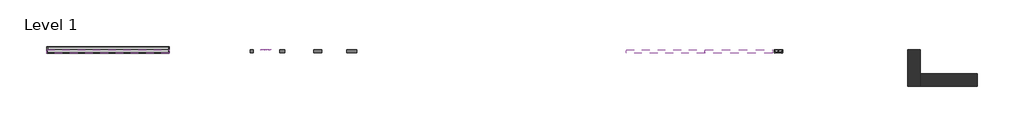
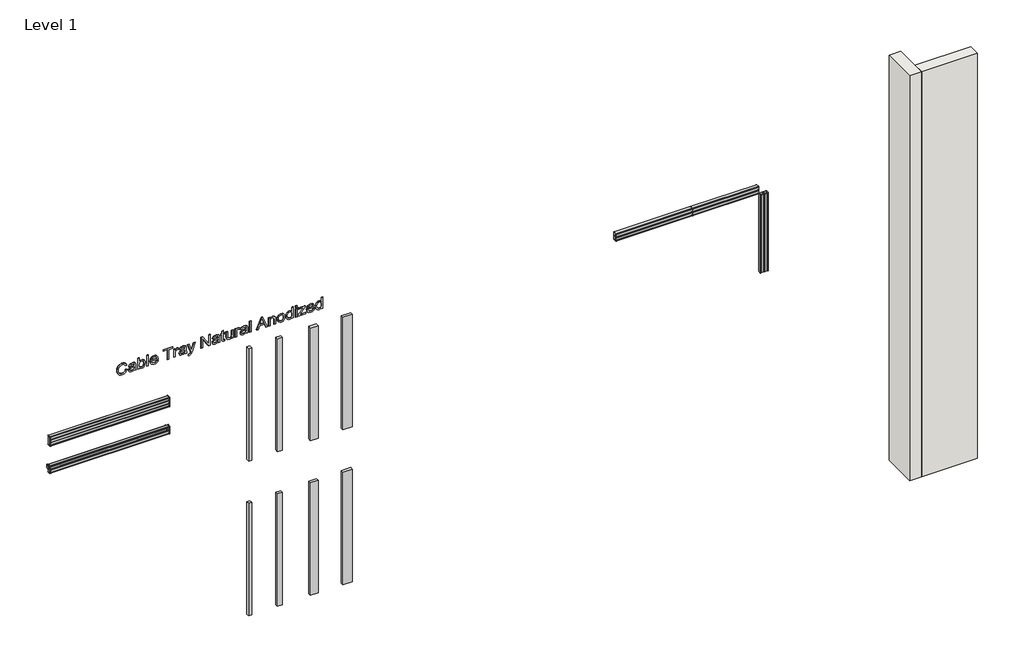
# One storey, incomplete: 8 cable carrier segments, 7 proxies, 2 walls.
"""IFC4 building model written with IfcOpenShell, lengths in millimetres."""

from ifc_helpers import new_model, si_unit, frame, origin, origin_with_axes, place, context, project, spatial, polyline, outline, extrude, faceted_brep, transform, mapped, element, save
from components import natural_anodized_aluminium_24a87ea1, natural_anodized_aluminium_b63ba4a8, natural_anodized_aluminium_cb93105c, natural_anodized_aluminium_d1e92eb6, natural_anodized_aluminium_aa0bdabd, natural_anodized_aluminium_e00abe71

model = new_model("IFC4")

# Units and contexts
model_context = context("Model", 3, world=origin())
ifc_project = project(units=[si_unit("LENGTHUNIT", "METRE", prefix="MILLI")], contexts=[model_context])

# Site, building, storey
site = spatial("IfcSite", under=ifc_project)
building = spatial("IfcBuilding", under=site)
storey = spatial("IfcBuildingStorey", under=building, Name="Level 1", Elevation=4000.0)

# Proxies
placement = place(None, origin())
element("IfcBuildingElementProxy", 1, Name="200mm Arial", ObjectType="200mm Arial", at=placement, inside=storey, context=model_context, shape_type="SweptSolid", body=[
    extrude(outline(polyline([(6110.4407483, -13910.5435834), (6089.3590175, -13918.5063238), (6074.1907483, -13931.4330065), (6065.0320944, -13948.5544007), (6061.9792098, -13969.1012757), (6064.2207964, -13986.7274776), (6070.945556, -14003.0676219), (6082.2015656, -14016.6974296), (6098.0369021, -14026.1926219), (6117.7003637, -14031.7635353), (6140.4407483, -14033.6205065), (6159.0104598, -14032.0519969), (6177.0272868, -14027.346468), (6192.9647868, -14018.7707469), (6205.2965175, -14005.5916603), (6213.1931521, -13988.2238719), (6215.8253637, -13967.082045), (6213.4515656, -13948.7406988), (6206.3301714, -13933.8128142), (6194.0164694, -13922.1541603), (6176.0657483, -13913.6205065), (6181.9311329, -13889.0051219), (6206.6426714, -13899.8765161), (6225.1042098, -13916.8176219), (6236.6066137, -13939.1313238), (6240.4407483, -13966.1205065), (6237.4780079, -13990.8560834), (6228.5897868, -14013.4281988), (6213.992431, -14032.4606507), (6193.9022868, -14046.5772373), (6169.1066137, -14055.3212276), (6140.3926714, -14058.2358911), (6113.1691137, -14055.6577661), (6087.7484406, -14047.9233911), (6066.1258444, -14035.2551219), (6050.2965175, -14017.8753142), (6040.5969983, -13995.2010353), (6037.3638252, -13966.6493526), (6041.6366618, -13938.5243526), (6054.4551714, -13915.1108911), (6075.4107002, -13897.2863719), (6104.0945944, -13885.9281988), (6110.4407483, -13910.5435834)])), frame((0.0, 2566.5081828, 0.0), z_axis=(0.0, 1.0, 0.0), x_axis=(0.0, 0.0, 1.0)), (0.0, 0.0, 1.0), 5.0),
    extrude(outline(polyline([(6058.9022868, -13762.8512757), (6040.4407483, -13756.6974296), (6040.4407483, -13732.082045), (6061.1378637, -13736.9858911), (6103.9022868, -13738.2358911), (6134.5272868, -13738.2358911), (6156.0657483, -13739.4378142), (6172.7724791, -13746.9858911), (6183.758056, -13763.8368526), (6188.133056, -13793.6685834), (6183.1811329, -13826.144545), (6177.1835368, -13838.5123334), (6169.0945944, -13847.5868526), (6145.0561329, -13858.2358911), (6141.9792098, -13833.6205065), (6152.2135848, -13828.7286796), (6158.7820944, -13821.7455065), (6163.5176714, -13796.8416603), (6161.7388252, -13781.0003142), (6156.4022868, -13769.6301219), (6149.2147868, -13764.5459873), (6138.2292098, -13762.8512757), (6132.7484406, -13762.9955065), (6124.2869021, -13805.6878142), (6120.5849791, -13826.9858911), (6112.508056, -13844.221468), (6098.3734406, -13856.6012757), (6078.9022868, -13861.3128142), (6062.351806, -13858.1938238), (6049.0465175, -13848.8368526), (6040.2844983, -13833.6625738), (6037.3638252, -13813.0916603), (6042.2195944, -13786.721468), (6058.9022868, -13762.8512757)]), holes=[polyline([(6108.133056, -13762.8512757), (6101.1619021, -13762.9955065), (6082.1234406, -13766.8897373), (6067.8686329, -13782.9474296), (6063.4515656, -13794.6301219), (6061.9792098, -13807.8512757), (6063.3133444, -13820.3212276), (6067.3157483, -13829.3656988), (6073.3133444, -13834.8644969), (6080.633056, -13836.6974296), (6090.1042098, -13833.332045), (6096.5945944, -13823.7406988), (6100.5849791, -13802.5628142), (6108.133056, -13762.8512757)])]), frame((0.0, 2566.5081828, 0.0), z_axis=(0.0, 1.0, 0.0), x_axis=(0.0, 0.0, 1.0)), (0.0, 0.0, 1.0), 5.0),
    extrude(outline(polyline([(6040.4407483, -13679.7743526), (6063.4695944, -13679.7743526), (6043.8902675, -13663.1517565), (6038.9954358, -13652.8662998), (6037.3638252, -13641.2647373), (6042.4239214, -13618.3260353), (6057.6042098, -13598.9330065), (6082.0513252, -13585.7178623), (6114.9119021, -13581.3128142), (6144.2628637, -13585.5676219), (6167.7003637, -13597.3224296), (6182.7724791, -13616.457045), (6188.133056, -13641.1205065), (6182.1835368, -13662.5387757), (6164.3349791, -13679.7743526), (6237.3638252, -13679.7743526), (6237.3638252, -13704.3897373), (6040.4407483, -13704.3897373), (6040.4407483, -13679.7743526)]), holes=[polyline([(6113.758056, -13679.7743526), (6135.0921906, -13676.9979103), (6150.7292098, -13668.6685834), (6160.320556, -13656.5291603), (6163.5176714, -13642.3224296), (6160.4287291, -13628.3380546), (6151.1619021, -13616.5772373), (6135.4167098, -13608.5904584), (6112.8926714, -13605.9281988), (6090.6931521, -13608.7046411), (6074.7676714, -13617.033968), (6065.1763252, -13629.1733911), (6061.9792098, -13643.3801219), (6066.3181521, -13660.1469488), (6079.3349791, -13673.0435834), (6093.2292098, -13678.0916603), (6113.758056, -13679.7743526)])]), frame((0.0, 2566.5081828, 0.0), z_axis=(0.0, 1.0, 0.0), x_axis=(0.0, 0.0, 1.0)), (0.0, 0.0, 1.0), 5.0),
    extrude(outline(polyline([(-13529.0051219, 2566.5081828), (-13553.6205065, 2566.5081828), (-13553.6205065, 2571.5081828), (-13529.0051219, 2571.5081828), (-13529.0051219, 2566.5081828)])), frame((0.0, 0.0, 6040.4407483), z_axis=(0.0, 0.0, 1.0), x_axis=(1.0, 0.0, 0.0)), (0.0, 0.0, 1.0), 196.9230769),
    extrude(outline(polyline([(6083.5176714, -13390.832045), (6073.7941137, -13397.7310834), (6067.1234406, -13406.6974296), (6061.9792098, -13430.832045), (6064.7556521, -13448.25392), (6073.0849791, -13462.5387757), (6086.6306521, -13472.4366123), (6105.0561329, -13476.6974296), (6105.0561329, -13366.0724296), (6111.6907483, -13365.9281988), (6143.9623829, -13370.59767), (6168.0849791, -13384.6060834), (6183.1210368, -13405.9702661), (6188.133056, -13432.707045), (6183.1090175, -13460.3031988), (6168.0369021, -13482.2262757), (6143.8662291, -13496.5411796), (6111.5465175, -13501.3128142), (6080.2784887, -13496.5892565), (6056.8590175, -13482.4185834), (6042.2376233, -13460.1950257), (6037.3638252, -13431.3128142), (6040.1883444, -13408.0135353), (6048.6619021, -13389.269545), (6062.2556521, -13375.393343), (6080.4407483, -13366.6974296), (6083.5176714, -13390.832045)]), holes=[polyline([(6129.6715175, -13476.6974296), (6143.5477194, -13472.6529584), (6154.3109406, -13463.1156988), (6161.2159887, -13449.3957469), (6163.5176714, -13432.8031988), (6160.633056, -13414.7503142), (6151.9792098, -13400.3993526), (6142.6763252, -13393.8729103), (6129.6715175, -13390.5435834), (6129.6715175, -13476.6974296)])]), frame((0.0, 2566.5081828, 0.0), z_axis=(0.0, 1.0, 0.0), x_axis=(0.0, 0.0, 1.0)), (0.0, 0.0, 1.0), 5.0),
    extrude(outline(polyline([(6040.4407483, -13212.082045), (6040.4407483, -13187.4666603), (6212.7484406, -13187.4666603), (6212.7484406, -13122.8512757), (6237.3638252, -13122.8512757), (6237.3638252, -13276.6974296), (6212.7484406, -13276.6974296), (6212.7484406, -13212.082045), (6040.4407483, -13212.082045)])), frame((0.0, 2566.5081828, 0.0), z_axis=(0.0, 1.0, 0.0), x_axis=(0.0, 0.0, 1.0)), (0.0, 0.0, 1.0), 5.0),
    extrude(outline(polyline([(6040.4407483, -13098.2358911), (6040.4407483, -13073.6205065), (6116.4503637, -13073.6205065), (6145.2003637, -13069.6301219), (6158.6619021, -13060.7599296), (6163.5176714, -13046.8416603), (6158.4695944, -13029.533968), (6180.5369021, -13021.3128142), (6186.2340175, -13033.7647373), (6188.133056, -13046.0243526), (6183.3734406, -13061.408968), (6163.6619021, -13076.6974296), (6185.0561329, -13076.6974296), (6185.0561329, -13098.2358911), (6040.4407483, -13098.2358911)])), frame((0.0, 2566.5081828, 0.0), z_axis=(0.0, 1.0, 0.0), x_axis=(0.0, 0.0, 1.0)), (0.0, 0.0, 1.0), 5.0),
    extrude(outline(polyline([(6058.9022868, -12913.6205065), (6040.4407483, -12907.4666603), (6040.4407483, -12882.8512757), (6061.1378637, -12887.7551219), (6103.9022868, -12889.0051219), (6134.5272868, -12889.0051219), (6156.0657483, -12890.207045), (6172.7724791, -12897.7551219), (6183.758056, -12914.6060834), (6188.133056, -12944.4378142), (6183.1811329, -12976.9137757), (6177.1835368, -12989.2815642), (6169.0945944, -12998.3560834), (6145.0561329, -13009.0051219), (6141.9792098, -12984.3897373), (6152.2135848, -12979.4979103), (6158.7820944, -12972.5147373), (6163.5176714, -12947.6108911), (6161.7388252, -12931.769545), (6156.4022868, -12920.3993526), (6149.2147868, -12915.315218), (6138.2292098, -12913.6205065), (6132.7484406, -12913.7647373), (6124.2869021, -12956.457045), (6120.5849791, -12977.7551219), (6112.508056, -12994.9906988), (6098.3734406, -13007.3705065), (6078.9022868, -13012.082045), (6062.351806, -13008.9630546), (6049.0465175, -12999.6060834), (6040.2844983, -12984.4318046), (6037.3638252, -12963.8608911), (6042.2195944, -12937.4906988), (6058.9022868, -12913.6205065)]), holes=[polyline([(6108.133056, -12913.6205065), (6101.1619021, -12913.7647373), (6082.1234406, -12917.658968), (6067.8686329, -12933.7166603), (6063.4515656, -12945.3993526), (6061.9792098, -12958.6205065), (6063.3133444, -12971.0904584), (6067.3157483, -12980.1349296), (6073.3133444, -12985.6337276), (6080.633056, -12987.4666603), (6090.1042098, -12984.1012757), (6096.5945944, -12974.5099296), (6100.5849791, -12953.332045), (6108.133056, -12913.6205065)])]), frame((0.0, 2566.5081828, 0.0), z_axis=(0.0, 1.0, 0.0), x_axis=(0.0, 0.0, 1.0)), (0.0, 0.0, 1.0), 5.0),
    extrude(outline(polyline([(5985.0561329, -12855.158968), (5981.9792098, -12840.1108911), (5987.508056, -12820.9281988), (6004.8638252, -12806.6493526), (6036.9792098, -12793.5724296), (6185.0561329, -12743.2358911), (6185.0561329, -12769.0051219), (6101.0176714, -12797.5147373), (6072.6522868, -12807.1781988), (6104.7676714, -12816.8416603), (6185.0561329, -12844.582045), (6185.0561329, -12870.5435834), (6040.9695944, -12818.2358911), (6035.008056, -12820.158968), (6016.883056, -12826.8897373), (6009.3109406, -12834.0531988), (6006.5945944, -12845.7358911), (6008.758056, -12858.2358911), (5985.0561329, -12855.158968)])), frame((0.0, 2566.5081828, 0.0), z_axis=(0.0, 1.0, 0.0), x_axis=(0.0, 0.0, 1.0)), (0.0, 0.0, 1.0), 5.0),
    extrude(outline(polyline([(6040.4407483, -12642.8512757), (6040.4407483, -12618.2358911), (6196.4984406, -12618.2358911), (6040.4407483, -12515.3512757), (6040.4407483, -12489.0051219), (6237.3638252, -12489.0051219), (6237.3638252, -12513.6205065), (6081.3542098, -12513.6205065), (6237.3638252, -12616.5051219), (6237.3638252, -12642.8512757), (6040.4407483, -12642.8512757)])), frame((0.0, 2566.5081828, 0.0), z_axis=(0.0, 1.0, 0.0), x_axis=(0.0, 0.0, 1.0)), (0.0, 0.0, 1.0), 5.0),
    extrude(outline(polyline([(6058.9022868, -12356.6974296), (6040.4407483, -12350.5435834), (6040.4407483, -12325.9281988), (6061.1378637, -12330.832045), (6103.9022868, -12332.082045), (6134.5272868, -12332.082045), (6156.0657483, -12333.283968), (6172.7724791, -12340.832045), (6183.758056, -12357.6830065), (6188.133056, -12387.5147373), (6183.1811329, -12419.9906988), (6177.1835368, -12432.3584873), (6169.0945944, -12441.4330065), (6145.0561329, -12452.082045), (6141.9792098, -12427.4666603), (6152.2135848, -12422.5748334), (6158.7820944, -12415.5916603), (6163.5176714, -12390.6878142), (6161.7388252, -12374.846468), (6156.4022868, -12363.4762757), (6149.2147868, -12358.3921411), (6138.2292098, -12356.6974296), (6132.7484406, -12356.8416603), (6124.2869021, -12399.533968), (6120.5849791, -12420.832045), (6112.508056, -12438.0676219), (6098.3734406, -12450.4474296), (6078.9022868, -12455.158968), (6062.351806, -12452.0399776), (6049.0465175, -12442.6830065), (6040.2844983, -12427.5087276), (6037.3638252, -12406.9378142), (6042.2195944, -12380.5676219), (6058.9022868, -12356.6974296)]), holes=[polyline([(6108.133056, -12356.6974296), (6101.1619021, -12356.8416603), (6082.1234406, -12360.7358911), (6067.8686329, -12376.7935834), (6063.4515656, -12388.4762757), (6061.9792098, -12401.6974296), (6063.3133444, -12414.1673815), (6067.3157483, -12423.2118526), (6073.3133444, -12428.7106507), (6080.633056, -12430.5435834), (6090.1042098, -12427.1781988), (6096.5945944, -12417.5868526), (6100.5849791, -12396.408968), (6108.133056, -12356.6974296)])]), frame((0.0, 2566.5081828, 0.0), z_axis=(0.0, 1.0, 0.0), x_axis=(0.0, 0.0, 1.0)), (0.0, 0.0, 1.0), 5.0),
    extrude(outline(polyline([(6060.9695944, -12245.9281988), (6061.9792098, -12256.6493526), (6063.6378637, -12265.0387757), (6068.133056, -12269.2455065), (6080.8253637, -12270.5435834), (6160.4407483, -12270.5435834), (6160.4407483, -12245.9281988), (6185.0561329, -12245.9281988), (6185.0561329, -12270.5435834), (6234.6715175, -12270.5435834), (6220.2003637, -12295.158968), (6185.0561329, -12295.158968), (6185.0561329, -12313.6205065), (6160.4407483, -12313.6205065), (6160.4407483, -12295.158968), (6080.1042098, -12295.158968), (6052.1715175, -12292.1781988), (6041.4503637, -12281.8897373), (6037.3638252, -12261.2647373), (6039.7195944, -12242.8512757), (6060.9695944, -12245.9281988)])), frame((0.0, 2566.5081828, 0.0), z_axis=(0.0, 1.0, 0.0), x_axis=(0.0, 0.0, 1.0)), (0.0, 0.0, 1.0), 5.0),
    extrude(outline(polyline([(6040.4407483, -12129.0051219), (6040.4407483, -12104.3897373), (6185.0561329, -12104.3897373), (6185.0561329, -12129.0051219), (6109.8157483, -12129.0051219), (6082.3878637, -12132.9955065), (6073.9323348, -12138.3861315), (6067.4599791, -12146.5772373), (6061.9792098, -12167.1301219), (6067.3397868, -12185.471468), (6073.7039694, -12191.6193046), (6082.0753637, -12195.207045), (6107.1715175, -12196.6974296), (6185.0561329, -12196.6974296), (6185.0561329, -12221.3128142), (6095.5849791, -12221.3128142), (6072.7003637, -12219.8705065), (6054.5753637, -12212.5387757), (6042.2676714, -12196.5772373), (6037.3638252, -12173.4281988), (6039.1096185, -12160.1229103), (6044.3469983, -12148.283968), (6053.0759646, -12137.9113719), (6065.2965175, -12129.0051219), (6040.4407483, -12129.0051219)])), frame((0.0, 2566.5081828, 0.0), z_axis=(0.0, 1.0, 0.0), x_axis=(0.0, 0.0, 1.0)), (0.0, 0.0, 1.0), 5.0),
    extrude(outline(polyline([(6040.4407483, -12070.5435834), (6040.4407483, -12045.9281988), (6116.4503637, -12045.9281988), (6145.2003637, -12041.9378142), (6158.6619021, -12033.0676219), (6163.5176714, -12019.1493526), (6158.4695944, -12001.8416603), (6180.5369021, -11993.6205065), (6186.2340175, -12006.0724296), (6188.133056, -12018.332045), (6183.3734406, -12033.7166603), (6163.6619021, -12049.0051219), (6185.0561329, -12049.0051219), (6185.0561329, -12070.5435834), (6040.4407483, -12070.5435834)])), frame((0.0, 2566.5081828, 0.0), z_axis=(0.0, 1.0, 0.0), x_axis=(0.0, 0.0, 1.0)), (0.0, 0.0, 1.0), 5.0),
    extrude(outline(polyline([(6058.9022868, -11885.9281988), (6040.4407483, -11879.7743526), (6040.4407483, -11855.158968), (6061.1378637, -11860.0628142), (6103.9022868, -11861.3128142), (6134.5272868, -11861.3128142), (6156.0657483, -11862.5147373), (6172.7724791, -11870.0628142), (6183.758056, -11886.9137757), (6188.133056, -11916.7455065), (6183.1811329, -11949.221468), (6177.1835368, -11961.5892565), (6169.0945944, -11970.6637757), (6145.0561329, -11981.3128142), (6141.9792098, -11956.6974296), (6152.2135848, -11951.8056026), (6158.7820944, -11944.8224296), (6163.5176714, -11919.9185834), (6161.7388252, -11904.0772373), (6156.4022868, -11892.707045), (6149.2147868, -11887.6229103), (6138.2292098, -11885.9281988), (6132.7484406, -11886.0724296), (6124.2869021, -11928.7647373), (6120.5849791, -11950.0628142), (6112.508056, -11967.2983911), (6098.3734406, -11979.6781988), (6078.9022868, -11984.3897373), (6062.351806, -11981.2707469), (6049.0465175, -11971.9137757), (6040.2844983, -11956.7394969), (6037.3638252, -11936.1685834), (6042.2195944, -11909.7983911), (6058.9022868, -11885.9281988)]), holes=[polyline([(6108.133056, -11885.9281988), (6101.1619021, -11886.0724296), (6082.1234406, -11889.9666603), (6067.8686329, -11906.0243526), (6063.4515656, -11917.707045), (6061.9792098, -11930.9281988), (6063.3133444, -11943.3981507), (6067.3157483, -11952.4426219), (6073.3133444, -11957.94142), (6080.633056, -11959.7743526), (6090.1042098, -11956.408968), (6096.5945944, -11946.8176219), (6100.5849791, -11925.6397373), (6108.133056, -11885.9281988)])]), frame((0.0, 2566.5081828, 0.0), z_axis=(0.0, 1.0, 0.0), x_axis=(0.0, 0.0, 1.0)), (0.0, 0.0, 1.0), 5.0),
    extrude(outline(polyline([(-11802.8512757, 2566.5081828), (-11827.4666603, 2566.5081828), (-11827.4666603, 2571.5081828), (-11802.8512757, 2571.5081828), (-11802.8512757, 2566.5081828)])), frame((0.0, 0.0, 6040.4407483), z_axis=(0.0, 0.0, 1.0), x_axis=(1.0, 0.0, 0.0)), (0.0, 0.0, 1.0), 196.9230769),
    extrude(outline(polyline([(6040.4407483, -11708.8608911), (6040.4407483, -11682.8512757), (6101.9792098, -11660.3512757), (6101.9792098, -11579.2455065), (6040.4407483, -11556.6974296), (6040.4407483, -11530.6878142), (6237.3638252, -11609.2935834), (6237.3638252, -11630.2551219), (6040.4407483, -11708.8608911)]), holes=[polyline([(6126.5945944, -11651.3128142), (6179.2388252, -11632.033968), (6212.7484406, -11619.7743526), (6175.008056, -11605.9762757), (6126.5945944, -11588.2358911), (6126.5945944, -11651.3128142)])]), frame((0.0, 2566.5081828, 0.0), z_axis=(0.0, 1.0, 0.0), x_axis=(0.0, 0.0, 1.0)), (0.0, 0.0, 1.0), 5.0),
    extrude(outline(polyline([(6040.4407483, -11507.4666603), (6040.4407483, -11482.8512757), (6117.1715175, -11482.8512757), (6139.851806, -11480.0447853), (6153.8542098, -11471.6253142), (6161.101806, -11459.3356507), (6163.5176714, -11444.9185834), (6159.2147868, -11428.019545), (6147.7003637, -11417.9955065), (6125.9215175, -11415.158968), (6040.4407483, -11415.158968), (6040.4407483, -11390.5435834), (6129.2388252, -11390.5435834), (6153.0369021, -11391.8416603), (6171.1378637, -11399.221468), (6183.445556, -11415.0868526), (6188.133056, -11438.332045), (6186.6787291, -11452.0399776), (6182.3157483, -11464.0291603), (6175.0441137, -11474.299593), (6164.8638252, -11482.8512757), (6185.0561329, -11482.8512757), (6185.0561329, -11507.4666603), (6040.4407483, -11507.4666603)])), frame((0.0, 2566.5081828, 0.0), z_axis=(0.0, 1.0, 0.0), x_axis=(0.0, 0.0, 1.0)), (0.0, 0.0, 1.0), 5.0),
    extrude(outline(polyline([(6112.7484406, -11362.8512757), (6080.4888252, -11358.3861315), (6056.7869021, -11344.9906988), (6042.2195944, -11324.3596892), (6037.3638252, -11298.1878142), (6039.5693541, -11280.8140161), (6046.1859406, -11264.846468), (6056.7929118, -11251.4029584), (6070.9695944, -11241.6012757), (6089.8998829, -11235.6156988), (6114.7676714, -11233.6205065), (6145.4227194, -11238.1337276), (6168.6378637, -11251.6733911), (6183.2592579, -11272.3284392), (6188.133056, -11298.1878142), (6184.1306521, -11321.8176219), (6172.1234406, -11341.5531988), (6161.1649069, -11350.8711075), (6147.6162291, -11357.5267565), (6112.7484406, -11362.8512757)]), holes=[polyline([(6112.7965175, -11338.2358911), (6135.0621425, -11335.3873334), (6150.8974791, -11326.8416603), (6160.3626233, -11313.9810834), (6163.5176714, -11298.1878142), (6160.3506041, -11282.5568046), (6150.8494021, -11269.7022373), (6135.1943541, -11261.1024776), (6113.5657483, -11258.2358911), (6090.8013252, -11261.0844488), (6074.7195944, -11269.6301219), (6065.164306, -11282.4666603), (6061.9792098, -11298.1878142), (6065.1462771, -11313.9810834), (6074.6474791, -11326.8416603), (6090.5188733, -11335.3873334), (6112.7965175, -11338.2358911)])]), frame((0.0, 2566.5081828, 0.0), z_axis=(0.0, 1.0, 0.0), x_axis=(0.0, 0.0, 1.0)), (0.0, 0.0, 1.0), 5.0),
    extrude(outline(polyline([(6040.4407483, -11116.6974296), (6040.4407483, -11092.082045), (6237.3638252, -11092.082045), (6237.3638252, -11116.6974296), (6163.9984406, -11116.6974296), (6181.4263252, -11132.8993526), (6186.4563733, -11143.5483911), (6188.133056, -11155.5916603), (6185.789306, -11172.1241123), (6178.758056, -11187.0099296), (6167.3277675, -11199.3176219), (6151.7869021, -11208.1156988), (6133.1931521, -11213.3981507), (6112.6042098, -11215.158968), (6091.7568541, -11213.2479103), (6073.445556, -11207.5147373), (6058.2832964, -11198.3080065), (6046.883056, -11185.9762757), (6039.7436329, -11171.408968), (6037.3638252, -11155.4955065), (6039.007455, -11143.4612517), (6043.9383444, -11132.9834873), (6052.1564935, -11124.0622132), (6063.6619021, -11116.6974296), (6040.4407483, -11116.6974296)]), holes=[polyline([(6112.7003637, -11190.5435834), (6135.5188733, -11187.9474296), (6151.2820944, -11180.158968), (6160.4587771, -11168.488295), (6163.5176714, -11154.2455065), (6160.3325752, -11139.6361315), (6150.7772868, -11127.5387757), (6134.4191137, -11119.4077661), (6110.8253637, -11116.6974296), (6089.2448348, -11119.3596892), (6074.0224791, -11127.346468), (6064.9900271, -11139.143343), (6061.9792098, -11153.2358911), (6065.1342579, -11167.3344488), (6074.5994021, -11179.4378142), (6090.4347387, -11187.7671411), (6112.7003637, -11190.5435834)])]), frame((0.0, 2566.5081828, 0.0), z_axis=(0.0, 1.0, 0.0), x_axis=(0.0, 0.0, 1.0)), (0.0, 0.0, 1.0), 5.0),
    extrude(outline(polyline([(-11030.5435834, 2566.5081828), (-11055.158968, 2566.5081828), (-11055.158968, 2571.5081828), (-11030.5435834, 2571.5081828), (-11030.5435834, 2566.5081828)])), frame((0.0, 0.0, 6040.4407483), z_axis=(0.0, 0.0, 1.0), x_axis=(1.0, 0.0, 0.0)), (0.0, 0.0, 1.0), 144.6153846),
    extrude(outline(polyline([(-11030.5435834, 2566.5081828), (-11055.158968, 2566.5081828), (-11055.158968, 2571.5081828), (-11030.5435834, 2571.5081828), (-11030.5435834, 2566.5081828)])), frame((0.0, 0.0, 6212.7484406), z_axis=(0.0, 0.0, 1.0), x_axis=(1.0, 0.0, 0.0)), (0.0, 0.0, 1.0), 24.6153846),
    extrude(outline(polyline([(6040.4407483, -11009.0051219), (6040.4407483, -10885.9281988), (6065.0561329, -10885.9281988), (6065.0561329, -10947.4185834), (6065.0561329, -10975.8801219), (6078.2292098, -10964.3416603), (6164.1426714, -10889.0051219), (6185.0561329, -10889.0051219), (6185.0561329, -11002.8512757), (6160.4407483, -11002.8512757), (6160.4407483, -10949.1974296), (6160.4407483, -10924.0531988), (6063.6138252, -11009.0051219), (6040.4407483, -11009.0051219)])), frame((0.0, 2566.5081828, 0.0), z_axis=(0.0, 1.0, 0.0), x_axis=(0.0, 0.0, 1.0)), (0.0, 0.0, 1.0), 5.0),
    extrude(outline(polyline([(6083.5176714, -10760.0628142), (6073.7941137, -10766.9618526), (6067.1234406, -10775.9281988), (6061.9792098, -10800.0628142), (6064.7556521, -10817.4846892), (6073.0849791, -10831.769545), (6086.6306521, -10841.6673815), (6105.0561329, -10845.9281988), (6105.0561329, -10735.3031988), (6111.6907483, -10735.158968), (6143.9623829, -10739.8284392), (6168.0849791, -10753.8368526), (6183.1210368, -10775.2010353), (6188.133056, -10801.9378142), (6183.1090175, -10829.533968), (6168.0369021, -10851.457045), (6143.8662291, -10865.7719488), (6111.5465175, -10870.5435834), (6080.2784887, -10865.8200257), (6056.8590175, -10851.6493526), (6042.2376233, -10829.425795), (6037.3638252, -10800.5435834), (6040.1883444, -10777.2443046), (6048.6619021, -10758.5003142), (6062.2556521, -10744.6241123), (6080.4407483, -10735.9281988), (6083.5176714, -10760.0628142)]), holes=[polyline([(6129.6715175, -10845.9281988), (6143.5477194, -10841.8837276), (6154.3109406, -10832.346468), (6161.2159887, -10818.6265161), (6163.5176714, -10802.033968), (6160.633056, -10783.9810834), (6151.9792098, -10769.6301219), (6142.6763252, -10763.1036796), (6129.6715175, -10759.7743526), (6129.6715175, -10845.9281988)])]), frame((0.0, 2566.5081828, 0.0), z_axis=(0.0, 1.0, 0.0), x_axis=(0.0, 0.0, 1.0)), (0.0, 0.0, 1.0), 5.0),
    extrude(outline(polyline([(6040.4407483, -10621.3128142), (6040.4407483, -10596.6974296), (6237.3638252, -10596.6974296), (6237.3638252, -10621.3128142), (6163.9984406, -10621.3128142), (6181.4263252, -10637.5147373), (6186.4563733, -10648.1637757), (6188.133056, -10660.207045), (6185.789306, -10676.7394969), (6178.758056, -10691.6253142), (6167.3277675, -10703.9330065), (6151.7869021, -10712.7310834), (6133.1931521, -10718.0135353), (6112.6042098, -10719.7743526), (6091.7568541, -10717.863295), (6073.445556, -10712.1301219), (6058.2832964, -10702.9233911), (6046.883056, -10690.5916603), (6039.7436329, -10676.0243526), (6037.3638252, -10660.1108911), (6039.007455, -10648.0766363), (6043.9383444, -10637.5988719), (6052.1564935, -10628.6775978), (6063.6619021, -10621.3128142), (6040.4407483, -10621.3128142)]), holes=[polyline([(6112.7003637, -10695.158968), (6135.5188733, -10692.5628142), (6151.2820944, -10684.7743526), (6160.4587771, -10673.1036796), (6163.5176714, -10658.8608911), (6160.3325752, -10644.2515161), (6150.7772868, -10632.1541603), (6134.4191137, -10624.0231507), (6110.8253637, -10621.3128142), (6089.2448348, -10623.9750738), (6074.0224791, -10631.9618526), (6064.9900271, -10643.7587276), (6061.9792098, -10657.8512757), (6065.1342579, -10671.9498334), (6074.5994021, -10684.0531988), (6090.4347387, -10692.3825257), (6112.7003637, -10695.158968)])]), frame((0.0, 2566.5081828, 0.0), z_axis=(0.0, 1.0, 0.0), x_axis=(0.0, 0.0, 1.0)), (0.0, 0.0, 1.0), 5.0),
])
natural_anodized_aluminium_shape = natural_anodized_aluminium_24a87ea1(model_context)
element("IfcBuildingElementProxy", 2, Name="Electrical_Installations_Hager_GBA-Flat-Lid-End-Cap : Natural Anodized Aluminium", ObjectType="Electrical_Installations_Hager_GBA-Flat-Lid-End-Cap : Natural Anodized Aluminium", at=placement, inside=storey, context=model_context, shape_type="MappedRepresentation", body=[
    mapped(natural_anodized_aluminium_shape, transform((-15206.2821542, 2571.5260198, 5315.9145405), x_axis=(1.0, 0.0, 0.0), y_axis=(0.0, 0.0, 1.0), z_axis=(0.0, -1.0, 0.0))),
])
natural_anodized_aluminium_2_shape = natural_anodized_aluminium_b63ba4a8(model_context)
element("IfcBuildingElementProxy", 3, Name="Electrical_Installations_Hager_GBA-Flat-Lid-End-Cap : Natural Anodized Aluminium", ObjectType="Electrical_Installations_Hager_GBA-Flat-Lid-End-Cap : Natural Anodized Aluminium", at=placement, inside=storey, context=model_context, shape_type="MappedRepresentation", body=[
    mapped(natural_anodized_aluminium_2_shape, transform((-15206.2821542, 2621.5081828, 4815.9145405), x_axis=(1.0, 0.0, 0.0), y_axis=(0.0, 0.0, 1.0), z_axis=(0.0, -1.0, 0.0))),
])
natural_anodized_aluminium_3_shape = natural_anodized_aluminium_cb93105c(model_context)
element("IfcBuildingElementProxy", 4, Name="Electrical_Installations_Hager_GBA-Flat-Lid-End-Cap : Natural Anodized Aluminium", ObjectType="Electrical_Installations_Hager_GBA-Flat-Lid-End-Cap : Natural Anodized Aluminium", at=placement, inside=storey, context=model_context, shape_type="MappedRepresentation", body=[
    mapped(natural_anodized_aluminium_3_shape, transform((-15206.2821542, 2571.5260198, 4815.9145405), x_axis=(1.0, 0.0, 0.0), y_axis=(0.0, 0.0, 1.0), z_axis=(0.0, -1.0, 0.0))),
])
natural_anodized_aluminium_4_shape = natural_anodized_aluminium_d1e92eb6(model_context)
element("IfcBuildingElementProxy", 5, Name="Electrical_Installations_Hager_GBA-Flat-Lid-End-Cap : Natural Anodized Aluminium", ObjectType="Electrical_Installations_Hager_GBA-Flat-Lid-End-Cap : Natural Anodized Aluminium", at=placement, inside=storey, context=model_context, shape_type="MappedRepresentation", body=[
    mapped(natural_anodized_aluminium_4_shape, transform((-3201.163518, 2571.5081828, 5516.4145405), x_axis=(0.0, 0.0, -1.0), y_axis=(1.0, 0.0, 0.0), z_axis=(0.0, -1.0, 0.0))),
])
natural_anodized_aluminium_5_shape = natural_anodized_aluminium_aa0bdabd(model_context)
element("IfcBuildingElementProxy", 6, Name="Electrical_Installations_Hager_GBA-Flat-Lid-End-Cap : Natural Anodized Aluminium", ObjectType="Electrical_Installations_Hager_GBA-Flat-Lid-End-Cap : Natural Anodized Aluminium", at=placement, inside=storey, context=model_context, shape_type="MappedRepresentation", body=[
    mapped(natural_anodized_aluminium_5_shape, transform((-5701.663518, 2571.5081828, 5615.9145405), x_axis=(1.0, 0.0, 0.0), y_axis=(0.0, 0.0, 1.0), z_axis=(0.0, -1.0, 0.0))),
])
natural_anodized_aluminium_6_shape = natural_anodized_aluminium_e00abe71(model_context)
element("IfcBuildingElementProxy", 7, Name="Electrical_Installations_Hager_GBA-Flat-Lid-End-Cap : Natural Anodized Aluminium", ObjectType="Electrical_Installations_Hager_GBA-Flat-Lid-End-Cap : Natural Anodized Aluminium", at=placement, inside=storey, context=model_context, shape_type="MappedRepresentation", body=[
    mapped(natural_anodized_aluminium_6_shape, transform((-4413.163518, 2571.5081828, 5615.9145405), x_axis=(1.0, 0.0, 0.0), y_axis=(0.0, 0.0, 1.0), z_axis=(0.0, -1.0, 0.0))),
])

# Cable carrier segments
element("IfcCableCarrierSegment", 8, ObjectType="Electrical_Installations_Hager_Trunking-GBA-ALU-Natural-Anodized-Aluminium", at=placement, inside=storey, context=model_context, shape_type="SweptSolid", body=[
    extrude(outline(polyline([(-11870.0321542, 2521.5260198), (-11870.0321542, 2571.5260198), (-11820.0321542, 2571.5260198), (-11820.0321542, 2521.5260198), (-11870.0321542, 2521.5260198)])), frame((0.0, 0.0, 3794.6645405), z_axis=(0.0, 0.0, 1.0), x_axis=(1.0, 0.0, 0.0)), (0.0, 0.0, 1.0), 2000.0),
])
element("IfcCableCarrierSegment", 9, ObjectType="Electrical_Installations_Hager_Trunking-GBA-ALU-Natural-Anodized-Aluminium", at=placement, inside=storey, context=model_context, shape_type="SweptSolid", body=[
    extrude(outline(polyline([(-11385.0321542, 2521.5260198), (-11385.0321542, 2571.5260198), (-11305.0321542, 2571.5260198), (-11305.0321542, 2521.5260198), (-11385.0321542, 2521.5260198)])), frame((0.0, 0.0, 3794.6645405), z_axis=(0.0, 0.0, 1.0), x_axis=(1.0, 0.0, 0.0)), (0.0, 0.0, 1.0), 2000.0),
])
element("IfcCableCarrierSegment", 10, ObjectType="Electrical_Installations_Hager_Trunking-GBA-ALU-Natural-Anodized-Aluminium", at=placement, inside=storey, context=model_context, shape_type="SweptSolid", body=[
    extrude(outline(polyline([(-10830.0321542, 2521.5260198), (-10830.0321542, 2571.5260198), (-10700.0321542, 2571.5260198), (-10700.0321542, 2521.5260198), (-10830.0321542, 2521.5260198)])), frame((0.0, 0.0, 3794.6645405), z_axis=(0.0, 0.0, 1.0), x_axis=(1.0, 0.0, 0.0)), (0.0, 0.0, 1.0), 2000.0),
])
element("IfcCableCarrierSegment", 11, ObjectType="Electrical_Installations_Hager_Trunking-GBA-ALU-Natural-Anodized-Aluminium", at=placement, inside=storey, context=model_context, shape_type="SweptSolid", body=[
    extrude(outline(polyline([(-10285.0321542, 2521.5260198), (-10285.0321542, 2571.5260198), (-10125.0321542, 2571.5260198), (-10125.0321542, 2521.5260198), (-10285.0321542, 2521.5260198)])), frame((0.0, 0.0, 3794.6645405), z_axis=(0.0, 0.0, 1.0), x_axis=(1.0, 0.0, 0.0)), (0.0, 0.0, 1.0), 2000.0),
])
element("IfcCableCarrierSegment", 12, ObjectType="Electrical_Installations_Hager_Trunking-GBA-RAL9010-Pure-White", at=placement, inside=storey, context=model_context, shape_type="SweptSolid", body=[
    extrude(outline(polyline([(-11870.0321542, 2521.5260198), (-11870.0321542, 2571.5260198), (-11820.0321542, 2571.5260198), (-11820.0321542, 2521.5260198), (-11870.0321542, 2521.5260198)])), frame((0.0, 0.0, 1043.4145405), z_axis=(0.0, 0.0, 1.0), x_axis=(1.0, 0.0, 0.0)), (0.0, 0.0, 1.0), 2000.0),
])
element("IfcCableCarrierSegment", 13, ObjectType="Electrical_Installations_Hager_Trunking-GBA-RAL9010-Pure-White", at=placement, inside=storey, context=model_context, shape_type="SweptSolid", body=[
    extrude(outline(polyline([(-11385.0321542, 2521.5260198), (-11385.0321542, 2571.5260198), (-11305.0321542, 2571.5260198), (-11305.0321542, 2521.5260198), (-11385.0321542, 2521.5260198)])), frame((0.0, 0.0, 1043.4145405), z_axis=(0.0, 0.0, 1.0), x_axis=(1.0, 0.0, 0.0)), (0.0, 0.0, 1.0), 2000.0),
])
element("IfcCableCarrierSegment", 14, ObjectType="Electrical_Installations_Hager_Trunking-GBA-RAL9010-Pure-White", at=placement, inside=storey, context=model_context, shape_type="SweptSolid", body=[
    extrude(outline(polyline([(-10830.0321542, 2521.5260198), (-10830.0321542, 2571.5260198), (-10700.0321542, 2571.5260198), (-10700.0321542, 2521.5260198), (-10830.0321542, 2521.5260198)])), frame((0.0, 0.0, 1043.4145405), z_axis=(0.0, 0.0, 1.0), x_axis=(1.0, 0.0, 0.0)), (0.0, 0.0, 1.0), 2000.0),
])
element("IfcCableCarrierSegment", 15, ObjectType="Electrical_Installations_Hager_Trunking-GBA-RAL9010-Pure-White", at=placement, inside=storey, context=model_context, shape_type="SweptSolid", body=[
    extrude(outline(polyline([(-10285.0321542, 2521.5260198), (-10285.0321542, 2571.5260198), (-10125.0321542, 2571.5260198), (-10125.0321542, 2521.5260198), (-10285.0321542, 2521.5260198)])), frame((0.0, 0.0, 1043.4145405), z_axis=(0.0, 0.0, 1.0), x_axis=(1.0, 0.0, 0.0)), (0.0, 0.0, 1.0), 2000.0),
])

# Walls
element("IfcWall", 16, ObjectType="Hager Wall", at=placement, inside=storey, context=model_context, shape_type="Brep", body=[
    faceted_brep([(-1076.3370042, 2571.5081828, 0.0), (-1076.3370042, 1971.5081828, 0.0), (-1076.3370042, 1971.5081828, 7196.9394147), (-1076.3370042, 2571.5081828, 7196.9394147), (-876.3370042, 2571.5081828, 0.0), (-876.3370042, 2571.5081828, 7196.9394147), (-876.3370042, 2171.5081828, 7196.9394147), (-876.3370042, 1971.5081828, 7196.9394147), (-876.3370042, 1971.5081828, 0.0), (-876.3370042, 2171.5081828, 0.0)], [[[0, 1, 2, 3]], [[4, 5, 6, 7, 8, 9]], [[1, 0, 4, 9, 8]], [[3, 2, 7, 6, 5]], [[0, 3, 5, 4]], [[2, 1, 8, 7]]]),
])
element("IfcWall", 17, ObjectType="Hager Wall", at=placement, inside=storey, context=model_context, shape_type="SweptSolid", body=[
    extrude(outline(polyline([(63.6629958, 1971.5081828), (-876.3370042, 1971.5081828), (-876.3370042, 2171.5081828), (63.6629958, 2171.5081828), (63.6629958, 1971.5081828)])), origin_with_axes(), (0.0, 0.0, 1.0), 7196.9394147),
])

save(model, "model.ifc")
